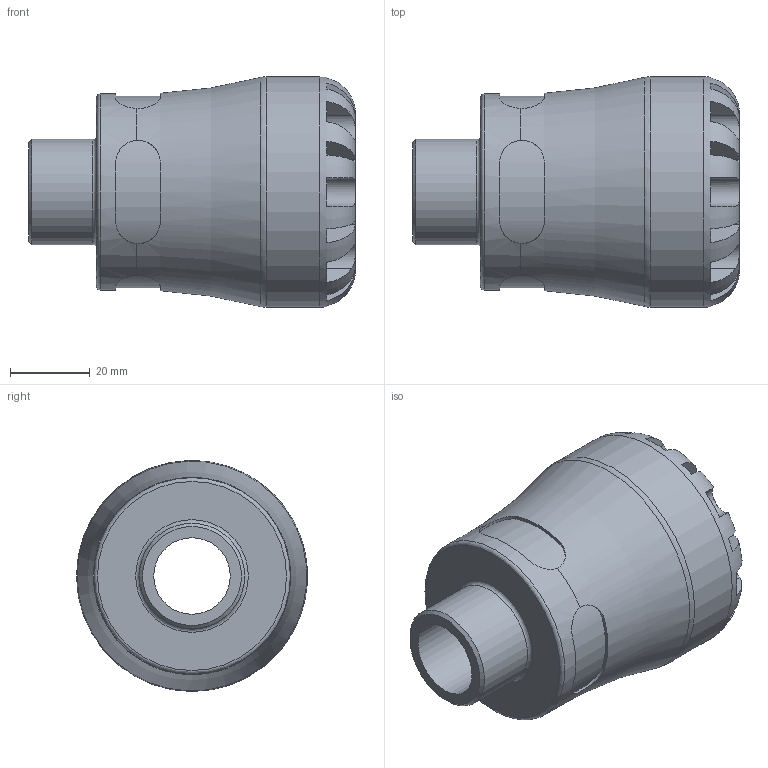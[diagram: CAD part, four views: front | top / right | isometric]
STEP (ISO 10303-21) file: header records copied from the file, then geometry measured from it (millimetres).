
FILE_DESCRIPTION(/* description */ ('PLASSON MALE ADAPTOR 32X3/4" SERIES 1'),/* implementation_level */ '2;1');
FILE_NAME(/* name */ 'C:\Dropbox\KIMPROJECTS-Inventor\99-16-3568-Processing\S1\1002\100200032007_190200032007.ipt.stp',/* time_stamp */ '2017-07-27T14:39:23+03:00',/* author */ ('KIM'),/* organization */ (''),/* preprocessor_version */ 'ST-DEVELOPER v15.6',/* originating_system */ 'Autodesk Inventor 2015',/* authorisation */ '');
FILE_SCHEMA (('AUTOMOTIVE_DESIGN { 1 0 10303 214 3 1 1 }'));
Length unit declared in the file: millimetre
Products named in the file (1): 100200032007_190200032007
Bounding box: 82 x 58 x 58 mm (x, y, z)
Volume: 98787.1 mm3; surface area: 24392.5 mm2
Topology: 1 solids, 1 shells, 100 faces, 257 edges, 161 vertices
Faces by surface type: plane 60, cylinder 33, torus 5, cone 2
Full cylindrical faces by diameter (mm): 19.2 x1, 26.441 x1, 32 x1, 49.3 x1, 58 x1
Entity records: 3770 total; most frequent: CARTESIAN_POINT 1451, ORIENTED_EDGE 484, DIRECTION 462, EDGE_CURVE 242, AXIS2_PLACEMENT_3D 191, VERTEX_POINT 158, EDGE_LOOP 116, FACE_OUTER_BOUND 100
